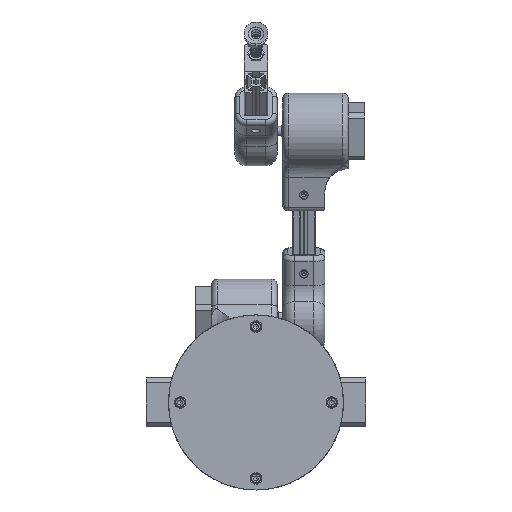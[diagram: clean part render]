
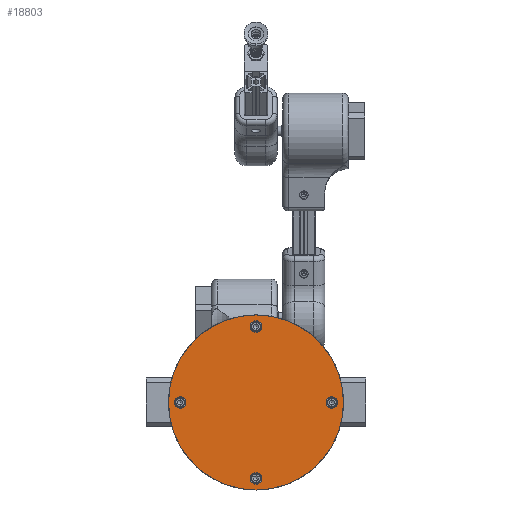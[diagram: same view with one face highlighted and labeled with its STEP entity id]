
A CAD part, front view. The second image highlights one B-rep face of the part: STEP entity #18803.
In plain terms, the highlighted planar face has unit normal (0, -1, 0) as drawn and (0, 1, 0) by its records, which use the part's own axes.
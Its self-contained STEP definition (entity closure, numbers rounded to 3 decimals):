
#3985=FACE_BOUND('',#5662,.T.);
#3986=FACE_BOUND('',#5663,.T.);
#3987=FACE_BOUND('',#5664,.T.);
#3988=FACE_BOUND('',#5665,.T.);
#4249=PLANE('',#20336);
#4743=FACE_OUTER_BOUND('',#5661,.T.);
#5661=EDGE_LOOP('',(#14229));
#5662=EDGE_LOOP('',(#14230));
#5663=EDGE_LOOP('',(#14231));
#5664=EDGE_LOOP('',(#14232));
#5665=EDGE_LOOP('',(#14233));
#9110=CIRCLE('',#20309,5.);
#9114=CIRCLE('',#20316,5.);
#9118=CIRCLE('',#20323,5.);
#9122=CIRCLE('',#20330,5.);
#9124=CIRCLE('',#20334,75.);
#10236=VERTEX_POINT('',#28892);
#10240=VERTEX_POINT('',#28905);
#10244=VERTEX_POINT('',#28918);
#10248=VERTEX_POINT('',#28931);
#10250=VERTEX_POINT('',#28939);
#11812=EDGE_CURVE('',#10236,#10236,#9110,.T.);
#11818=EDGE_CURVE('',#10240,#10240,#9114,.T.);
#11824=EDGE_CURVE('',#10244,#10244,#9118,.T.);
#11830=EDGE_CURVE('',#10248,#10248,#9122,.T.);
#11834=EDGE_CURVE('',#10250,#10250,#9124,.T.);
#14229=ORIENTED_EDGE('',*,*,#11834,.T.);
#14230=ORIENTED_EDGE('',*,*,#11812,.T.);
#14231=ORIENTED_EDGE('',*,*,#11818,.T.);
#14232=ORIENTED_EDGE('',*,*,#11824,.T.);
#14233=ORIENTED_EDGE('',*,*,#11830,.T.);
#18803=ADVANCED_FACE('',(#4743,#3985,#3986,#3987,#3988),#4249,.T.);
#20309=AXIS2_PLACEMENT_3D('',#28893,#22896,#22897);
#20316=AXIS2_PLACEMENT_3D('',#28906,#22912,#22913);
#20323=AXIS2_PLACEMENT_3D('',#28919,#22928,#22929);
#20330=AXIS2_PLACEMENT_3D('',#28932,#22944,#22945);
#20334=AXIS2_PLACEMENT_3D('',#28940,#22954,#22955);
#20336=AXIS2_PLACEMENT_3D('',#28944,#22959,#22960);
#22896=DIRECTION('center_axis',(0.,-1.,0.));
#22897=DIRECTION('ref_axis',(0.,0.,1.));
#22912=DIRECTION('center_axis',(0.,-1.,0.));
#22913=DIRECTION('ref_axis',(-1.,0.,0.));
#22928=DIRECTION('center_axis',(0.,-1.,0.));
#22929=DIRECTION('ref_axis',(0.,0.,-1.));
#22944=DIRECTION('center_axis',(0.,-1.,0.));
#22945=DIRECTION('ref_axis',(1.,0.,0.));
#22954=DIRECTION('center_axis',(0.,1.,0.));
#22955=DIRECTION('ref_axis',(-1.,0.,0.));
#22959=DIRECTION('center_axis',(0.,1.,0.));
#22960=DIRECTION('ref_axis',(0.,0.,1.));
#28892=CARTESIAN_POINT('',(0.,40.,60.));
#28893=CARTESIAN_POINT('Origin',(0.,40.,65.));
#28905=CARTESIAN_POINT('',(-60.,40.,0.));
#28906=CARTESIAN_POINT('Origin',(-65.,40.,0.));
#28918=CARTESIAN_POINT('',(0.,40.,-60.));
#28919=CARTESIAN_POINT('Origin',(0.,40.,-65.));
#28931=CARTESIAN_POINT('',(60.,40.,0.));
#28932=CARTESIAN_POINT('Origin',(65.,40.,0.));
#28939=CARTESIAN_POINT('',(75.,40.,0.));
#28940=CARTESIAN_POINT('Origin',(0.,40.,0.));
#28944=CARTESIAN_POINT('Origin',(0.,40.,0.));
